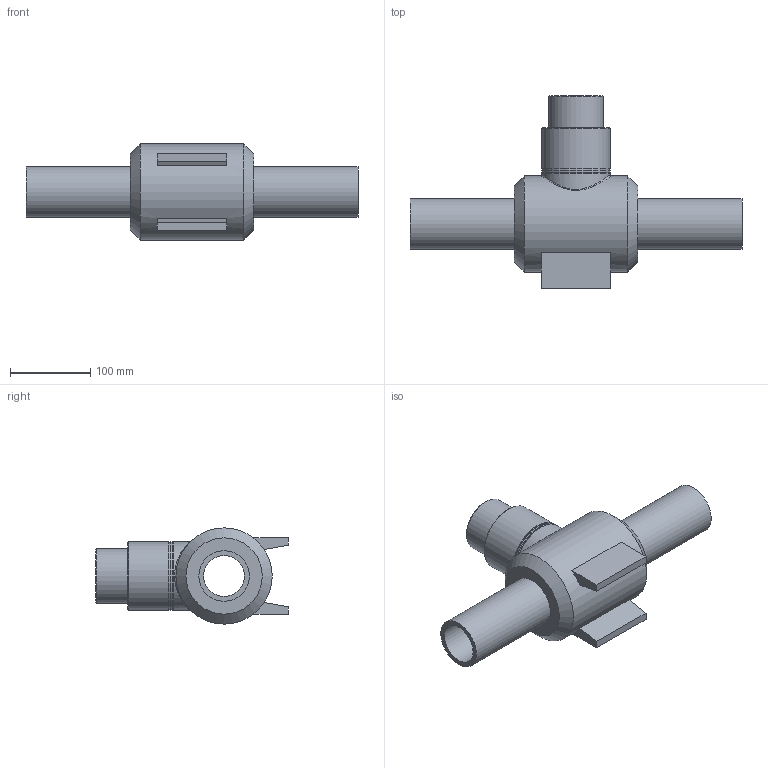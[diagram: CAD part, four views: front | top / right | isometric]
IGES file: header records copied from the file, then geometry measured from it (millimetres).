
Global section: file name: 436207063.ipt; native system: Autodesk Inventor 2015; preprocessor: unknown; author: Кирилл,,11,0; organization: 20170828.110610; date: 20171001.144233; units: millimetre
Bounding box: 414 x 240 x 120 mm (x, y, z)
Volume: 1975500.9 mm3; surface area: 238850.9 mm2
Topology: 1 solids, 1 shells, 33 faces, 81 edges, 54 vertices
Faces by surface type: plane 16, cylinder 7, cone 4, revolution 4, bspline 2
Full cylindrical faces by diameter (mm): 63 x2, 68 x1, 85 x3, 120 x1
